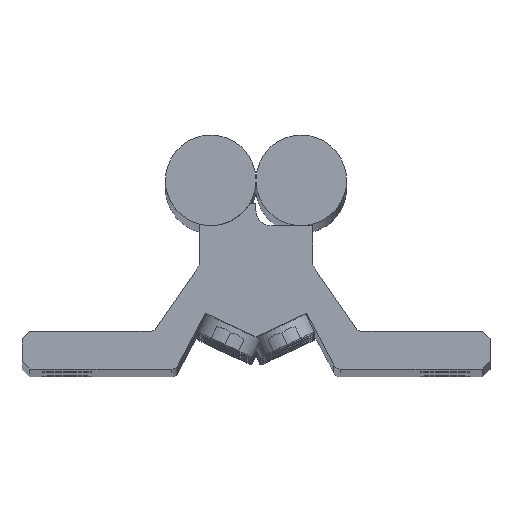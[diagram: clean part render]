
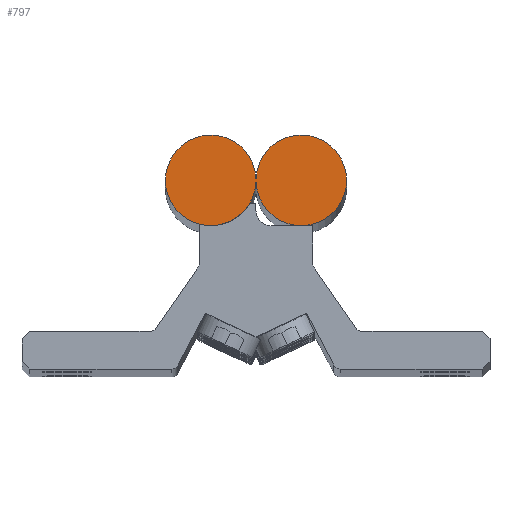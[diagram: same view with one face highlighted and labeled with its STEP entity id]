
A CAD part, top view. The second image highlights one B-rep face of the part: STEP entity #797.
In plain terms, the highlighted planar face has unit normal (0, 0, 1).
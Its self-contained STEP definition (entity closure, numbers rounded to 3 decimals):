
#189 = ORIENTED_EDGE ( 'NONE', *, *, #9962, .T. ) ;
#190 = ORIENTED_EDGE ( 'NONE', *, *, #718, .T. ) ;
#191 = ORIENTED_EDGE ( 'NONE', *, *, #921, .T. ) ;
#192 = ORIENTED_EDGE ( 'NONE', *, *, #904, .T. ) ;
#193 = ORIENTED_EDGE ( 'NONE', *, *, #895, .T. ) ;
#716 = VERTEX_POINT ( 'NONE', #5123 ) ;
#718 = EDGE_CURVE ( 'NONE', #9960, #716, #5121, .T. ) ;
#797 = ADVANCED_FACE ( 'NONE', ( #5420 ), #5419, .T. ) ;
#798 = EDGE_LOOP ( 'NONE', ( #189, #190, #191, #192, #193 ) ) ;
#895 = EDGE_CURVE ( 'NONE', #896, #9963, #5543, .T. ) ;
#896 = VERTEX_POINT ( 'NONE', #5539 ) ;
#902 = VERTEX_POINT ( 'NONE', #5531 ) ;
#904 = EDGE_CURVE ( 'NONE', #902, #896, #5526, .T. ) ;
#921 = EDGE_CURVE ( 'NONE', #716, #902, #5455, .T. ) ;
#5117 = DIRECTION ( 'NONE',  ( 1., 0., 0. ) ) ;
#5118 = DIRECTION ( 'NONE',  ( 0., 0., 1. ) ) ;
#5119 = CARTESIAN_POINT ( 'NONE',  ( 6., 25., 1. ) ) ;
#5120 = AXIS2_PLACEMENT_3D ( 'NONE', #5119, #5118, #5117 ) ;
#5121 = CIRCLE ( 'NONE', #5120, 6. ) ;
#5123 = CARTESIAN_POINT ( 'NONE',  ( 0.005, 25.25, 1. ) ) ;
#5415 = DIRECTION ( 'NONE',  ( 1., 0., 0. ) ) ;
#5416 = DIRECTION ( 'NONE',  ( 0., 0., 1. ) ) ;
#5417 = CARTESIAN_POINT ( 'NONE',  ( 6., 25., 1. ) ) ;
#5418 = AXIS2_PLACEMENT_3D ( 'NONE', #5417, #5416, #5415 ) ;
#5419 = PLANE ( 'NONE',  #5418 ) ;
#5420 = FACE_OUTER_BOUND ( 'NONE', #798, .T. ) ;
#5452 = DIRECTION ( 'NONE',  ( -1., 0., 0. ) ) ;
#5453 = VECTOR ( 'NONE', #5452, 1000. ) ;
#5454 = CARTESIAN_POINT ( 'NONE',  ( 0.005, 25.25, 1. ) ) ;
#5455 = LINE ( 'NONE', #5454, #5453 ) ;
#5476 = DIRECTION ( 'NONE',  ( 1., 0., 0. ) ) ;
#5477 = DIRECTION ( 'NONE',  ( 0., 0., 1. ) ) ;
#5478 = CARTESIAN_POINT ( 'NONE',  ( -6., 25., 1. ) ) ;
#5479 = AXIS2_PLACEMENT_3D ( 'NONE', #5478, #5477, #5476 ) ;
#5526 = CIRCLE ( 'NONE', #5479, 6. ) ;
#5531 = CARTESIAN_POINT ( 'NONE',  ( -0.005, 25.25, 1. ) ) ;
#5539 = CARTESIAN_POINT ( 'NONE',  ( -0.005, 24.75, 1. ) ) ;
#5540 = DIRECTION ( 'NONE',  ( 1., 0., 0. ) ) ;
#5541 = VECTOR ( 'NONE', #5540, 1000. ) ;
#5542 = CARTESIAN_POINT ( 'NONE',  ( -0.005, 24.75, 1. ) ) ;
#5543 = LINE ( 'NONE', #5542, #5541 ) ;
#9026 = CARTESIAN_POINT ( 'NONE',  ( 0.005, 24.75, 1. ) ) ;
#9027 = DIRECTION ( 'NONE',  ( 1., 0., 0. ) ) ;
#9028 = DIRECTION ( 'NONE',  ( 0., 0., 1. ) ) ;
#9029 = CARTESIAN_POINT ( 'NONE',  ( 6., 25., 1. ) ) ;
#9030 = AXIS2_PLACEMENT_3D ( 'NONE', #9029, #9028, #9027 ) ;
#9031 = CIRCLE ( 'NONE', #9030, 6. ) ;
#9032 = CARTESIAN_POINT ( 'NONE',  ( 12., 25., 1. ) ) ;
#9960 = VERTEX_POINT ( 'NONE', #9032 ) ;
#9962 = EDGE_CURVE ( 'NONE', #9963, #9960, #9031, .T. ) ;
#9963 = VERTEX_POINT ( 'NONE', #9026 ) ;
